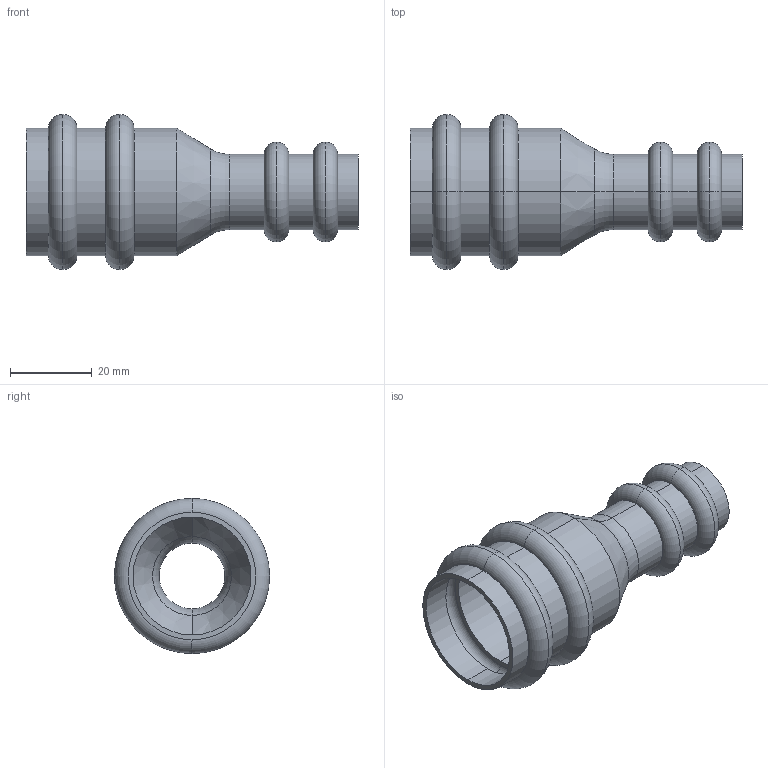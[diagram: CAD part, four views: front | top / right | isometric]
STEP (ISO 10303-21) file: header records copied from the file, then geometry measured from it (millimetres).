
FILE_DESCRIPTION(('starvars output'),'1');
FILE_NAME('cv20240422105358000011754.stp','10:53:59 2024/04/22',('Thomas Industrial Network Germany GmbH'),(' '),'Spatial InterOp 3D',' ',' ');
FILE_SCHEMA(('AUTOMOTIVE_DESIGN { 1 0 10303 214 3 1 1 }'));
Length unit declared in the file: millimetre
Products named in the file (1): 1
Bounding box: 81.45 x 38.1 x 38.1 mm (x, y, z)
Volume: 9723.8 mm3; surface area: 16127.2 mm2
Topology: 1 solids, 1 shells, 84 faces, 168 edges, 104 vertices
Faces by surface type: torus 36, cylinder 24, plane 20, cone 4
Entity records: 2940 total; most frequent: DIRECTION 478, CARTESIAN_POINT 357, ORIENTED_EDGE 336, AXIS2_PLACEMENT_3D 225, EDGE_CURVE 168, CIRCLE 140, EDGE_LOOP 104, VERTEX_POINT 104
